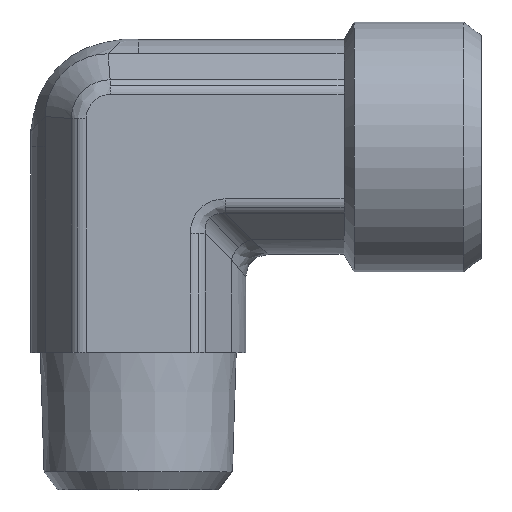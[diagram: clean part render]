
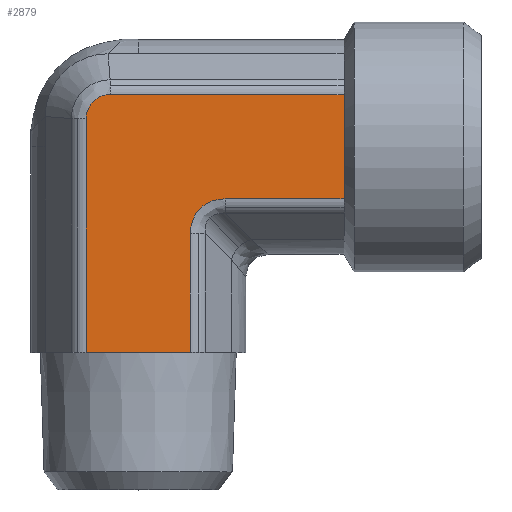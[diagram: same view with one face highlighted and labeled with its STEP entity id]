
A CAD part, top view. The second image highlights one B-rep face of the part: STEP entity #2879.
In plain terms, the highlighted planar face has unit normal (0, 0, 1) as drawn and (0, -1, 0) by its records, which use the part's own axes.
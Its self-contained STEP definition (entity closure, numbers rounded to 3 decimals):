
#361=CARTESIAN_POINT('',(3.092,-9.4,4.561));
#362=VERTEX_POINT('',#361);
#370=CARTESIAN_POINT('',(13.5,-9.4,4.561));
#371=VERTEX_POINT('',#370);
#372=CARTESIAN_POINT('',(3.092,-9.4,4.561));
#373=DIRECTION('',(1.0,0.0,0.0));
#374=VECTOR('',#373,10.408);
#375=LINE('',#372,#374);
#376=EDGE_CURVE('',#362,#371,#375,.T.);
#485=CARTESIAN_POINT('',(-9.061,-9.4,-2.461));
#486=VERTEX_POINT('',#485);
#494=CARTESIAN_POINT('',(-9.061,-9.4,18.0));
#495=VERTEX_POINT('',#494);
#496=CARTESIAN_POINT('',(-9.061,-9.4,-2.461));
#497=DIRECTION('',(0.0,0.0,1.0));
#498=VECTOR('',#497,20.461);
#499=LINE('',#496,#498);
#500=EDGE_CURVE('',#486,#495,#499,.T.);
#1815=CARTESIAN_POINT('',(-4.5,-9.4,18.0));
#1816=VERTEX_POINT('',#1815);
#1951=CARTESIAN_POINT('',(-4.5,-9.4,18.0));
#1952=DIRECTION('',(-1.0,0.0,0.0));
#1953=VECTOR('',#1952,4.561);
#1954=LINE('',#1951,#1953);
#1955=EDGE_CURVE('',#1816,#495,#1954,.T.);
#2028=CARTESIAN_POINT('',(0.061,-9.4,18.0));
#2029=VERTEX_POINT('',#2028);
#2030=CARTESIAN_POINT('',(0.061,-9.4,18.0));
#2031=DIRECTION('',(-1.0,0.0,0.0));
#2032=VECTOR('',#2031,4.561);
#2033=LINE('',#2030,#2032);
#2034=EDGE_CURVE('',#2029,#1816,#2033,.T.);
#2122=CARTESIAN_POINT('',(13.5,-9.4,-4.561));
#2123=VERTEX_POINT('',#2122);
#2124=CARTESIAN_POINT('',(13.5,-9.4,-4.561));
#2125=DIRECTION('',(0.0,0.0,1.0));
#2126=VECTOR('',#2125,9.122);
#2127=LINE('',#2124,#2126);
#2128=EDGE_CURVE('',#2123,#371,#2127,.T.);
#2564=CARTESIAN_POINT('',(-6.961,-9.4,-4.561));
#2565=VERTEX_POINT('',#2564);
#2573=CARTESIAN_POINT('',(-9.061,-9.4,-2.461));
#2574=CARTESIAN_POINT('',(-9.061,-9.4,-2.598));
#2575=CARTESIAN_POINT('',(-9.048,-9.4,-2.736));
#2576=CARTESIAN_POINT('',(-8.977,-9.4,-3.088));
#2577=CARTESIAN_POINT('',(-8.901,-9.4,-3.296));
#2578=CARTESIAN_POINT('',(-8.62,-9.4,-3.796));
#2579=CARTESIAN_POINT('',(-8.37,-9.4,-4.058));
#2580=CARTESIAN_POINT('',(-7.737,-9.4,-4.451));
#2581=CARTESIAN_POINT('',(-7.349,-9.4,-4.561));
#2582=CARTESIAN_POINT('',(-6.961,-9.4,-4.561));
#2583=B_SPLINE_CURVE_WITH_KNOTS('',3,(#2573,#2574,#2575,#2576,#2577,#2578,#2579,#2580,#2581,#2582),.UNSPECIFIED.,.F.,.U.,(4,2,2,2,4),(-3.281,-2.871,-2.215,-1.165,0.0),.UNSPECIFIED.);
#2584=EDGE_CURVE('',#2565,#486,#2583,.F.);
#2611=CARTESIAN_POINT('',(13.5,-9.4,-4.561));
#2612=DIRECTION('',(-1.0,0.0,0.0));
#2613=VECTOR('',#2612,20.461);
#2614=LINE('',#2611,#2613);
#2615=EDGE_CURVE('',#2123,#2565,#2614,.T.);
#2747=CARTESIAN_POINT('',(0.061,-9.4,7.592));
#2748=VERTEX_POINT('',#2747);
#2749=CARTESIAN_POINT('',(0.061,-9.4,18.0));
#2750=DIRECTION('',(0.0,0.0,-1.0));
#2751=VECTOR('',#2750,10.408);
#2752=LINE('',#2749,#2751);
#2753=EDGE_CURVE('',#2029,#2748,#2752,.T.);
#2836=CARTESIAN_POINT('',(4.103,-9.4,8.603));
#2837=DIRECTION('',(0.,-1.0,0.));
#2838=DIRECTION('',(-0.707,0.,-0.707));
#2839=AXIS2_PLACEMENT_3D('',#2836,#2837,#2838);
#2840=ELLIPSE('',#2839,4.518,3.5);
#2841=EDGE_CURVE('',#2748,#362,#2840,.T.);
#2863=CARTESIAN_POINT('',(-4.5,-9.4,-3.175));
#2864=DIRECTION('',(0.0,-1.0,0.0));
#2865=DIRECTION('',(0.0,0.0,-1.0));
#2866=AXIS2_PLACEMENT_3D('',#2863,#2864,#2865);
#2867=PLANE('',#2866);
#2868=ORIENTED_EDGE('',*,*,#2615,.F.);
#2869=ORIENTED_EDGE('',*,*,#2128,.T.);
#2870=ORIENTED_EDGE('',*,*,#376,.F.);
#2871=ORIENTED_EDGE('',*,*,#2841,.F.);
#2872=ORIENTED_EDGE('',*,*,#2753,.F.);
#2873=ORIENTED_EDGE('',*,*,#2034,.T.);
#2874=ORIENTED_EDGE('',*,*,#1955,.T.);
#2875=ORIENTED_EDGE('',*,*,#500,.F.);
#2876=ORIENTED_EDGE('',*,*,#2584,.F.);
#2877=EDGE_LOOP('',(#2868,#2869,#2870,#2871,#2872,#2873,#2874,#2875,#2876));
#2878=FACE_OUTER_BOUND('',#2877,.T.);
#2879=ADVANCED_FACE('',(#2878),#2867,.T.);
